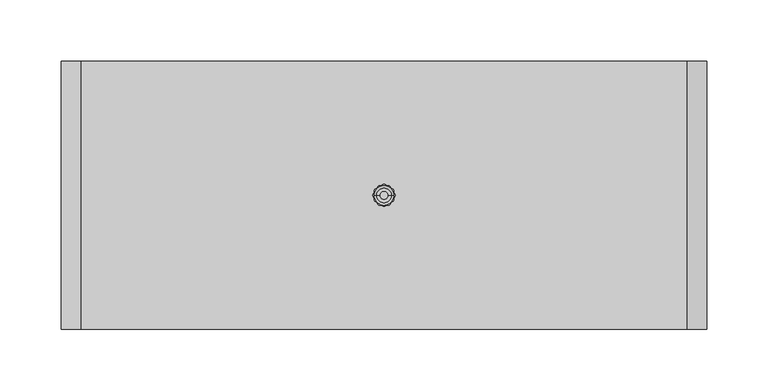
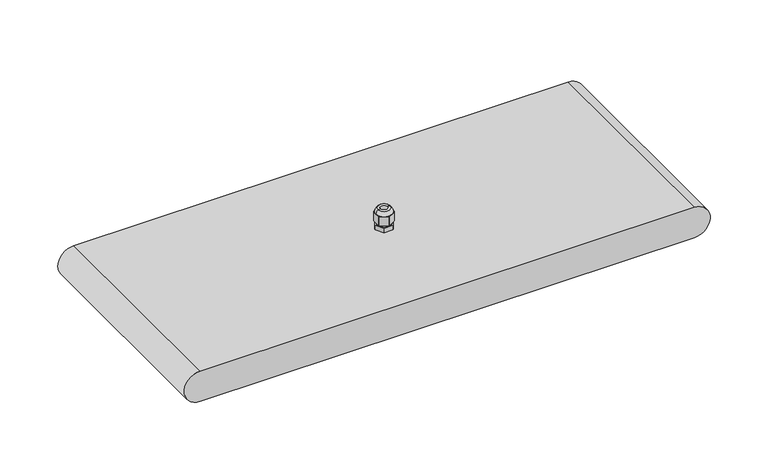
"""IFC4 building model written with IfcOpenShell, lengths in millimetres: light fixture geometry, GENILED_Светильник светодиодный_Element Advanced : Element Advanced 0,5x2 100Вт Линза Ш2."""

from ifc_helpers import new_model, si_unit, point, frame, origin, origin_with_axes, place, context, project, spatial, polyline, circle_curve, ellipse_curve, trimmed, outline, extrude, source, transform, mapped, element, save
from ifc_brep_helpers import plane_surface, cylinder_surface, revolved_surface, advanced_brep


def light_fixture_7213bc0d(model_context):
    return source(origin(), model_context, "Body", "SolidModel", [
        advanced_brep(
        [(5.85, 0.0, 52.0120269), (-5.85, 0.0, 52.0120269), (-3.5, 0.0, 52.0120269), (3.5, 0.0, 52.0120269), (8.0, 0.0, 48.0120269), (4.0, 6.9282032, 48.0120269), (-4.0, 6.9282032, 48.0120269), (-8.0, 0.0, 48.0120269), (-4.0, -6.9282032, 48.0120269), (4.0, -6.9282032, 48.0120269), (-3.5, 0.0, 48.0120269), (3.5, 0.0, 48.0120269), (8.0, 4.1231056, 48.0120269), (7.5707142, 4.8666504, 48.0120269), (0.4292858, 8.989756, 48.0120269), (-0.4292858, 8.989756, 48.0120269), (-7.5707142, 4.8666504, 48.0120269), (-8.0, 4.1231056, 48.0120269), (-8.0, -4.1231056, 48.0120269), (-7.5707142, -4.8666504, 48.0120269), (-0.4292858, -8.989756, 48.0120269), (0.4292858, -8.989756, 48.0120269), (7.5707142, -4.8666504, 48.0120269), (8.0, -4.1231056, 48.0120269), (0.4292858, 8.989756, 38.6), (7.5707142, 4.8666504, 38.6), (8.0, 4.1231056, 38.6), (8.0, -4.1231056, 38.6), (7.5707142, -4.8666504, 38.6), (0.4292858, -8.989756, 38.6), (-0.4292858, -8.989756, 38.6), (-7.5707142, -4.8666504, 38.6), (-8.0, -4.1231056, 38.6), (-8.0, 4.1231056, 38.6), (-7.5707142, 4.8666504, 38.6), (-0.4292858, 8.989756, 38.6), (-7.25, 0.0, 38.6), (7.25, 0.0, 38.6), (-7.25, 0.0, 36.6), (7.25, 0.0, 36.6), (-8.989756, -0.4292858, 36.6), (-4.8666504, -7.5707142, 36.6), (-4.1231056, -8.0, 36.6), (4.1231056, -8.0, 36.6), (4.8666504, -7.5707142, 36.6), (8.989756, -0.4292858, 36.6), (9.0, 0.0, 36.6), (8.989756, 0.4292858, 36.6), (4.8666504, 7.5707142, 36.6), (4.1231056, 8.0, 36.6), (-4.1231056, 8.0, 36.6), (-4.8666504, 7.5707142, 36.6), (-8.989756, 0.4292858, 36.6), (-9.0, 0.0, 36.6), (-8.989756, 0.4292858, 32.0), (-4.8666504, 7.5707142, 32.0), (-4.1231056, 8.0, 32.0), (4.1231056, 8.0, 32.0), (4.8666504, 7.5707142, 32.0), (8.989756, 0.4292858, 32.0), (9.0, 0.0, 32.0), (8.989756, -0.4292858, 32.0), (4.8666504, -7.5707142, 32.0), (4.1231056, -8.0, 32.0), (-4.1231056, -8.0, 32.0), (-4.8666504, -7.5707142, 32.0), (-8.989756, -0.4292858, 32.0), (-9.0, 0.0, 32.0)],
        [
            (0, 1, circle_curve(frame((0.0, 0.0, 52.0120269), z_axis=(0.0, 0.0, 1.0), x_axis=(-1.0, 0.0, 0.0)), 5.85)),
            (1, 2),
            (2, 3, circle_curve(frame((0.0, 0.0, 52.0120269), z_axis=(0.0, 0.0, -1.0), x_axis=(-1.0, 0.0, 0.0)), 3.5)),
            (3, 0),
            (1, 0, circle_curve(frame((0.0, 0.0, 52.0120269), z_axis=(0.0, 0.0, 1.0), x_axis=(-1.0, 0.0, 0.0)), 5.85)),
            (3, 2, circle_curve(frame((0.0, 0.0, 52.0120269), z_axis=(0.0, 0.0, -1.0), x_axis=(-1.0, 0.0, 0.0)), 3.5)),
            (0, 4, circle_curve(frame((2.4876149, 0.0, 47.6269324), z_axis=(0.0, 1.0, 0.0), x_axis=(-1.0, 0.0, 0.0)), 5.5258201)),
            (4, 5, circle_curve(frame((0.0, 0.0, 48.0120269), z_axis=(0.0, 0.0, 1.0), x_axis=(-1.0, 0.0, 0.0)), 8.0)),
            (5, 6, circle_curve(frame((0.0, 0.0, 48.0120269), z_axis=(0.0, 0.0, 1.0), x_axis=(-1.0, 0.0, 0.0)), 8.0)),
            (6, 7, circle_curve(frame((0.0, 0.0, 48.0120269), z_axis=(0.0, 0.0, 1.0), x_axis=(-1.0, 0.0, 0.0)), 8.0)),
            (7, 1, circle_curve(frame((-2.4876149, 0.0, 47.6269324), z_axis=(0.0, 1.0, 0.0), x_axis=(1.0, 0.0, 0.0)), 5.5258201)),
            (7, 8, circle_curve(frame((0.0, 0.0, 48.0120269), z_axis=(0.0, 0.0, 1.0), x_axis=(-1.0, 0.0, 0.0)), 8.0)),
            (8, 9, circle_curve(frame((0.0, 0.0, 48.0120269), z_axis=(0.0, 0.0, 1.0), x_axis=(-1.0, 0.0, 0.0)), 8.0)),
            (9, 4, circle_curve(frame((0.0, 0.0, 48.0120269), z_axis=(0.0, 0.0, 1.0), x_axis=(-1.0, 0.0, 0.0)), 8.0)),
            (2, 10),
            (10, 11, circle_curve(frame((0.0, 0.0, 48.0120269), z_axis=(0.0, 0.0, -1.0), x_axis=(-1.0, 0.0, 0.0)), 3.5)),
            (11, 3),
            (11, 10, circle_curve(frame((0.0, 0.0, 48.0120269), z_axis=(0.0, 0.0, -1.0), x_axis=(-1.0, 0.0, 0.0)), 3.5)),
            (4, 12),
            (12, 13, circle_curve(frame((0.0, 0.0, 48.0120269), z_axis=(0.0, 0.0, 1.0), x_axis=(1.0, 0.0, 0.0)), 9.0)),
            (13, 5),
            (5, 14),
            (14, 15, circle_curve(frame((0.0, 0.0, 48.0120269), z_axis=(0.0, 0.0, 1.0), x_axis=(1.0, 0.0, 0.0)), 9.0)),
            (15, 6),
            (6, 16),
            (16, 17, circle_curve(frame((0.0, 0.0, 48.0120269), z_axis=(0.0, 0.0, 1.0), x_axis=(1.0, 0.0, 0.0)), 9.0)),
            (17, 7),
            (7, 18),
            (18, 19, circle_curve(frame((0.0, 0.0, 48.0120269), z_axis=(0.0, 0.0, 1.0), x_axis=(1.0, 0.0, 0.0)), 9.0)),
            (19, 8),
            (8, 20),
            (20, 21, circle_curve(frame((0.0, 0.0, 48.0120269), z_axis=(0.0, 0.0, 1.0), x_axis=(1.0, 0.0, 0.0)), 9.0)),
            (21, 9),
            (9, 22),
            (22, 23, circle_curve(frame((0.0, 0.0, 48.0120269), z_axis=(0.0, 0.0, 1.0), x_axis=(1.0, 0.0, 0.0)), 9.0)),
            (23, 4),
            (24, 25),
            (25, 26, circle_curve(frame((0.0, 0.0, 38.6), z_axis=(0.0, 0.0, -1.0), x_axis=(1.0, 0.0, 0.0)), 9.0)),
            (26, 27),
            (27, 28, circle_curve(frame((0.0, 0.0, 38.6), z_axis=(0.0, 0.0, -1.0), x_axis=(1.0, 0.0, 0.0)), 9.0)),
            (28, 29),
            (29, 30, circle_curve(frame((0.0, 0.0, 38.6), z_axis=(0.0, 0.0, -1.0), x_axis=(1.0, 0.0, 0.0)), 9.0)),
            (30, 31),
            (31, 32, circle_curve(frame((0.0, 0.0, 38.6), z_axis=(0.0, 0.0, -1.0), x_axis=(1.0, 0.0, 0.0)), 9.0)),
            (32, 33),
            (33, 34, circle_curve(frame((0.0, 0.0, 38.6), z_axis=(0.0, 0.0, -1.0), x_axis=(1.0, 0.0, 0.0)), 9.0)),
            (34, 35),
            (35, 24, circle_curve(frame((0.0, 0.0, 38.6), z_axis=(0.0, 0.0, -1.0), x_axis=(1.0, 0.0, 0.0)), 9.0)),
            (36, 37, circle_curve(frame((0.0, 0.0, 38.6), z_axis=(0.0, 0.0, 1.0), x_axis=(1.0, 0.0, 0.0)), 7.25)),
            (37, 36, circle_curve(frame((0.0, 0.0, 38.6), z_axis=(0.0, 0.0, 1.0), x_axis=(1.0, 0.0, 0.0)), 7.25)),
            (15, 35),
            (34, 16),
            (17, 33),
            (32, 18),
            (19, 31),
            (30, 20),
            (21, 29),
            (28, 22),
            (23, 27),
            (26, 12),
            (13, 25),
            (24, 14),
            (36, 38),
            (38, 39, circle_curve(frame((0.0, 0.0, 36.6), z_axis=(0.0, 0.0, 1.0), x_axis=(1.0, 0.0, 0.0)), 7.25)),
            (39, 37),
            (39, 38, circle_curve(frame((0.0, 0.0, 36.6), z_axis=(0.0, 0.0, 1.0), x_axis=(1.0, 0.0, 0.0)), 7.25)),
            (40, 41),
            (41, 42, circle_curve(frame((0.0, 0.0, 36.6), z_axis=(0.0, 0.0, 1.0), x_axis=(1.0, 0.0, 0.0)), 9.0)),
            (42, 43),
            (43, 44, circle_curve(frame((0.0, 0.0, 36.6), z_axis=(0.0, 0.0, 1.0), x_axis=(1.0, 0.0, 0.0)), 9.0)),
            (44, 45),
            (45, 46, circle_curve(frame((0.0, 0.0, 36.6), z_axis=(0.0, 0.0, 1.0), x_axis=(1.0, 0.0, 0.0)), 9.0)),
            (46, 47, circle_curve(frame((0.0, 0.0, 36.6), z_axis=(0.0, 0.0, 1.0), x_axis=(1.0, 0.0, 0.0)), 9.0)),
            (47, 48),
            (48, 49, circle_curve(frame((0.0, 0.0, 36.6), z_axis=(0.0, 0.0, 1.0), x_axis=(1.0, 0.0, 0.0)), 9.0)),
            (49, 50),
            (50, 51, circle_curve(frame((0.0, 0.0, 36.6), z_axis=(0.0, 0.0, 1.0), x_axis=(1.0, 0.0, 0.0)), 9.0)),
            (51, 52),
            (52, 53, circle_curve(frame((0.0, 0.0, 36.6), z_axis=(0.0, 0.0, 1.0), x_axis=(1.0, 0.0, 0.0)), 9.0)),
            (53, 40, circle_curve(frame((0.0, 0.0, 36.6), z_axis=(0.0, 0.0, 1.0), x_axis=(1.0, 0.0, 0.0)), 9.0)),
            (54, 55),
            (55, 56, circle_curve(frame((0.0, 0.0, 32.0), z_axis=(0.0, 0.0, -1.0), x_axis=(1.0, 0.0, 0.0)), 9.0)),
            (56, 57),
            (57, 58, circle_curve(frame((0.0, 0.0, 32.0), z_axis=(0.0, 0.0, -1.0), x_axis=(1.0, 0.0, 0.0)), 9.0)),
            (58, 59),
            (59, 60, circle_curve(frame((0.0, 0.0, 32.0), z_axis=(0.0, 0.0, -1.0), x_axis=(1.0, 0.0, 0.0)), 9.0)),
            (60, 61, circle_curve(frame((0.0, 0.0, 32.0), z_axis=(0.0, 0.0, -1.0), x_axis=(1.0, 0.0, 0.0)), 9.0)),
            (61, 62),
            (62, 63, circle_curve(frame((0.0, 0.0, 32.0), z_axis=(0.0, 0.0, -1.0), x_axis=(1.0, 0.0, 0.0)), 9.0)),
            (63, 64),
            (64, 65, circle_curve(frame((0.0, 0.0, 32.0), z_axis=(0.0, 0.0, -1.0), x_axis=(1.0, 0.0, 0.0)), 9.0)),
            (65, 66),
            (66, 67, circle_curve(frame((0.0, 0.0, 32.0), z_axis=(0.0, 0.0, -1.0), x_axis=(1.0, 0.0, 0.0)), 9.0)),
            (67, 54, circle_curve(frame((0.0, 0.0, 32.0), z_axis=(0.0, 0.0, -1.0), x_axis=(1.0, 0.0, 0.0)), 9.0)),
            (40, 66),
            (65, 41),
            (42, 64),
            (63, 43),
            (44, 62),
            (61, 45),
            (47, 59),
            (58, 48),
            (49, 57),
            (56, 50),
            (51, 55),
            (54, 52),
            (67, 53),
            (46, 60),
        ],
        [
            plane_surface(frame((0.0, 0.0, 52.0120269), z_axis=(0.0, 0.0, 1.0), x_axis=(-1.0, 0.0, 0.0))),
            revolved_surface(trimmed(ellipse_curve(frame((-2.4876149, 0.0, 47.6269324), z_axis=(0.0, -1.0, 0.0), x_axis=(1.0, 0.0, 0.0)), 5.5258201, 5.5258201), [point((-5.85, 0.0, 52.0120269))], [point((-8.0, 0.0, 48.0120269))], True, "CARTESIAN"), (0.0, 0.0, 48.0120269), (0.0, 0.0, -1.0)),
            revolved_surface(polyline([(-3.5, 0.0, 48.0120269), (-3.5, 0.0, 52.0120269)]), (0.0, 0.0, 48.0120269), (0.0, 0.0, -1.0)),
            plane_surface(frame((0.0, 9.2376043, 48.0120269), z_axis=(0.0, 0.0, 1.0000000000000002), x_axis=(-0.8660254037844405, -0.49999999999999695, 0.0))),
            plane_surface(frame((0.0, 9.2376043, 38.6), z_axis=(0.0, 0.0, -1.0000000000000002), x_axis=(0.8660254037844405, 0.49999999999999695, 0.0))),
            plane_surface(frame((0.0, 9.2376043, 48.0120269), z_axis=(-0.49999999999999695, 0.8660254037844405, 0.0), x_axis=(0.0, 0.0, -1.0))),
            plane_surface(frame((-8.0, 4.6188022, 48.0120269), z_axis=(-1.0, 0.0, 0.0), x_axis=(0.0, 0.0, -1.0))),
            plane_surface(frame((-8.0, -4.6188022, 48.0120269), z_axis=(-0.5000000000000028, -0.8660254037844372, 0.0), x_axis=(0.0, 0.0, -1.0))),
            plane_surface(frame((0.0, -9.2376043, 48.0120269), z_axis=(0.49999999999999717, -0.8660254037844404, 0.0), x_axis=(0.0, 0.0, -1.0))),
            plane_surface(frame((8.0, -4.6188022, 48.0120269), z_axis=(1.0, 0.0, 0.0), x_axis=(0.0, 0.0, -1.0))),
            plane_surface(frame((8.0, 4.6188022, 48.0120269), z_axis=(0.5000000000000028, 0.8660254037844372, 0.0), x_axis=(0.0, 0.0, -1.0))),
            cylinder_surface(frame((0.0, 0.0, 36.6), z_axis=(0.0, 0.0, 1.0), x_axis=(1.0, 0.0, 0.0)), 7.25),
            plane_surface(frame((-9.2376043, 0.0, 36.6), z_axis=(0.0, 0.0, 1.0), x_axis=(0.5000000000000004, -0.8660254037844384, 0.0))),
            plane_surface(frame((-9.2376043, 0.0, 32.0), z_axis=(0.0, 0.0, -1.0), x_axis=(-0.5000000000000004, 0.8660254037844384, 0.0))),
            plane_surface(frame((-9.2376043, 0.0, 36.6), z_axis=(-0.8660254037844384, -0.5000000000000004, 0.0), x_axis=(0.0, 0.0, -1.0))),
            plane_surface(frame((-4.6188022, -8.0, 36.6), z_axis=(0.0, -1.0, 0.0), x_axis=(0.0, 0.0, -1.0))),
            plane_surface(frame((4.6188022, -8.0, 36.6), z_axis=(0.866025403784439, -0.49999999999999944, 0.0), x_axis=(0.0, 0.0, -1.0))),
            plane_surface(frame((9.2376043, 0.0, 36.6), z_axis=(0.8660254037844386, 0.5000000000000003, 0.0), x_axis=(0.0, 0.0, -1.0))),
            plane_surface(frame((4.6188022, 8.0, 36.6), z_axis=(0.0, 1.0, 0.0), x_axis=(0.0, 0.0, -1.0))),
            plane_surface(frame((-4.6188022, 8.0, 36.6), z_axis=(-0.8660254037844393, 0.49999999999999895, 0.0), x_axis=(0.0, 0.0, -1.0))),
            cylinder_surface(frame((0.0, 0.0, 32.0), z_axis=(0.0, 0.0, -1.0), x_axis=(1.0, 0.0, 0.0)), 9.0),
        ],
        [
            (0, [[1, 2, 3, 4]]),
            (0, [[-2, 5, -4, 6]]),
            (1, [[-1, 7, 8, 9, 10, 11]]),
            (1, [[-5, -11, 12, 13, 14, -7]]),
            (2, [[-3, 15, 16, 17]]),
            (2, [[-6, -17, 18, -15]]),
            (3, [[-8, 19, 20, 21]]),
            (3, [[-9, 22, 23, 24]]),
            (3, [[-10, 25, 26, 27]]),
            (3, [[-12, 28, 29, 30]]),
            (3, [[-13, 31, 32, 33]]),
            (3, [[-14, 34, 35, 36]]),
            (3, [[-16, -18]]),
            (4, [[37, 38, 39, 40, 41, 42, 43, 44, 45, 46, 47, 48], [49, 50]]),
            (5, [[-25, -24, 51, -47, 52]]),
            (6, [[-27, 53, -45, 54, -28]]),
            (7, [[-30, 55, -43, 56, -31]]),
            (8, [[-34, -33, 57, -41, 58]]),
            (9, [[-36, 59, -39, 60, -19]]),
            (10, [[-21, 61, -37, 62, -22]]),
            (11, [[63, 64, 65, -49]]),
            (11, [[-63, -50, -65, 66]]),
            (12, [[67, 68, 69, 70, 71, 72, 73, 74, 75, 76, 77, 78, 79, 80], [-64, -66]]),
            (13, [[81, 82, 83, 84, 85, 86, 87, 88, 89, 90, 91, 92, 93, 94]]),
            (14, [[-67, 95, -92, 96]]),
            (15, [[-69, 97, -90, 98]]),
            (16, [[-71, 99, -88, 100]]),
            (17, [[-74, 101, -85, 102]]),
            (18, [[-76, 103, -83, 104]]),
            (19, [[-78, 105, -81, 106]]),
            (20, [[-20, -60, -38, -61]]),
            (20, [[-23, -62, -48, -51]]),
            (20, [[-26, -52, -46, -53]]),
            (20, [[-75, -102, -84, -103]]),
            (20, [[-77, -104, -82, -105]]),
            (20, [[107, -79, -106, -94]]),
            (20, [[108, -86, -101, -73]]),
            (20, [[-29, -54, -44, -55]]),
            (20, [[-32, -56, -42, -57]]),
            (20, [[-35, -58, -40, -59]]),
            (20, [[-68, -96, -91, -97]]),
            (20, [[-70, -98, -89, -99]]),
            (20, [[-107, -93, -95, -80]]),
            (20, [[-108, -72, -100, -87]]),
        ],
    ),
        advanced_brep(
        [(246.5, -109.0, 32.0), (-246.5, -109.0, 32.0), (-246.5, -109.0, 0.0), (246.5, -109.0, 0.0), (246.5, 109.0, 32.0), (246.5, 109.0, 0.0), (-246.5, 109.0, 0.0), (-246.5, 109.0, 32.0), (-246.5, 99.0, 0.0), (-246.5, -99.0, 0.0), (246.5, -99.0, 0.0), (246.5, 99.0, 0.0), (246.5, 99.0, 2.0), (246.5, -99.0, 2.0), (-246.5, -99.0, 2.0), (-246.5, 99.0, 2.0)],
        [
            (0, 1),
            (1, 2, circle_curve(frame((-246.5, -109.0, 16.0), z_axis=(0.0, -1.0, 0.0), x_axis=(1.0, 0.0, 0.0)), 16.0)),
            (2, 3),
            (3, 0, circle_curve(frame((246.5, -109.0, 16.0), z_axis=(0.0, -1.0, 0.0), x_axis=(1.0, 0.0, 0.0)), 16.0)),
            (4, 5, circle_curve(frame((246.5, 109.0, 16.0), z_axis=(0.0, 1.0, 0.0), x_axis=(1.0, 0.0, 0.0)), 16.0)),
            (5, 6),
            (6, 7, circle_curve(frame((-246.5, 109.0, 16.0), z_axis=(0.0, 1.0, 0.0), x_axis=(1.0, 0.0, 0.0)), 16.0)),
            (7, 4),
            (0, 4),
            (7, 1),
            (6, 8),
            (8, 9),
            (9, 2),
            (9, 10),
            (10, 3),
            (5, 11),
            (11, 8),
            (10, 11),
            (12, 13),
            (13, 14),
            (14, 15),
            (15, 12),
            (15, 8),
            (11, 12),
            (14, 9),
            (13, 10),
        ],
        [
            plane_surface(frame((-246.5, -109.0, 32.0), z_axis=(0.0, -1.0, 0.0), x_axis=(-1.0, 0.0, 0.0))),
            plane_surface(frame((-246.5, 109.0, 32.0), z_axis=(0.0, 1.0, 0.0), x_axis=(1.0, 0.0, 0.0))),
            plane_surface(frame((246.5, -109.0, 32.0), z_axis=(0.0, 0.0, 1.0), x_axis=(0.0, 1.0, 0.0))),
            cylinder_surface(frame((-246.5, 109.0, 16.0), z_axis=(0.0, -1.0, 0.0), x_axis=(1.0, 0.0, 0.0)), 16.0),
            plane_surface(frame((-246.5, -109.0, 0.0), z_axis=(0.0, 0.0, -1.0), x_axis=(0.0, 1.0, 0.0))),
            cylinder_surface(frame((246.5, 109.0, 16.0), z_axis=(0.0, -1.0, 0.0), x_axis=(1.0, 0.0, 0.0)), 16.0),
            plane_surface(frame((-246.5, 99.0, 2.0), z_axis=(0.0, 0.0, -1.0), x_axis=(-1.0, 0.0, 0.0))),
            plane_surface(frame((246.5, 99.0, 2.0), z_axis=(0.0, -1.0, 0.0), x_axis=(0.0, 0.0, -1.0))),
            plane_surface(frame((-246.5, 99.0, 2.0), z_axis=(1.0, 0.0, 0.0), x_axis=(0.0, 0.0, -1.0))),
            plane_surface(frame((-246.5, -99.0, 2.0), z_axis=(0.0, 1.0, 0.0), x_axis=(0.0, 0.0, -1.0))),
            plane_surface(frame((246.5, -99.0, 2.0), z_axis=(-1.0, 0.0, 0.0), x_axis=(0.0, 0.0, -1.0))),
        ],
        [
            (0, [[1, 2, 3, 4]]),
            (1, [[5, 6, 7, 8]]),
            (2, [[-1, 9, -8, 10]]),
            (3, [[-2, -10, -7, 11, 12, 13]]),
            (4, [[-3, -13, 14, 15]]),
            (4, [[-6, 16, 17, -11]]),
            (5, [[-4, -15, 18, -16, -5, -9]]),
            (6, [[19, 20, 21, 22]]),
            (7, [[-22, 23, -17, 24]]),
            (8, [[-21, 25, -12, -23]]),
            (9, [[-20, 26, -14, -25]]),
            (10, [[-19, -24, -18, -26]]),
        ],
    ),
        extrude(outline(polyline([(246.5, 99.0), (246.5, -99.0), (-246.5, -99.0), (-246.5, 99.0), (246.5, 99.0)])), origin_with_axes(), (0.0, 0.0, 1.0), 2.0),
    ])


if __name__ == "__main__":
    model = new_model("IFC4")
    model_context = context("Model", 3, world=origin())
    ifc_project = project(units=[si_unit("LENGTHUNIT", "METRE", prefix="MILLI")], contexts=[model_context])
    site = spatial("IfcSite", under=ifc_project)
    building = spatial("IfcBuilding", under=site)
    placement = place(None, origin())
    light_fixture_shape = light_fixture_7213bc0d(model_context)
    element("IfcLightFixture", 1, ObjectType="GENILED_Светильник светодиодный_Element Advanced : Element Advanced 0,5x2 100Вт Линза Ш2", at=placement, inside=building, context=model_context, shape_type="MappedRepresentation", body=[
        mapped(light_fixture_shape, transform((0.0, 0.0, 0.0), x_axis=(1.0, 0.0, 0.0), y_axis=(0.0, 1.0, 0.0), z_axis=(0.0, 0.0, 1.0))),
    ])
    save(model, "model.ifc")
